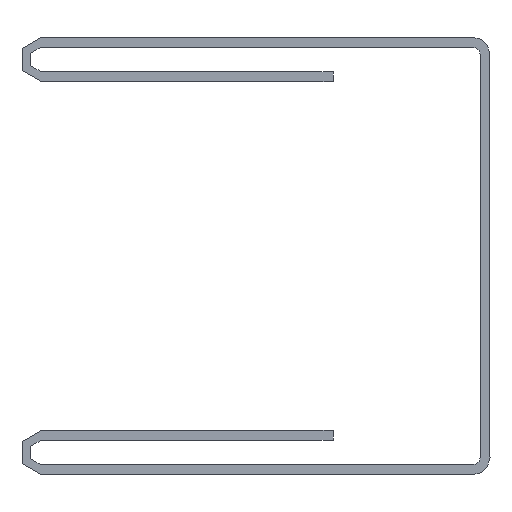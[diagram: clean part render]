
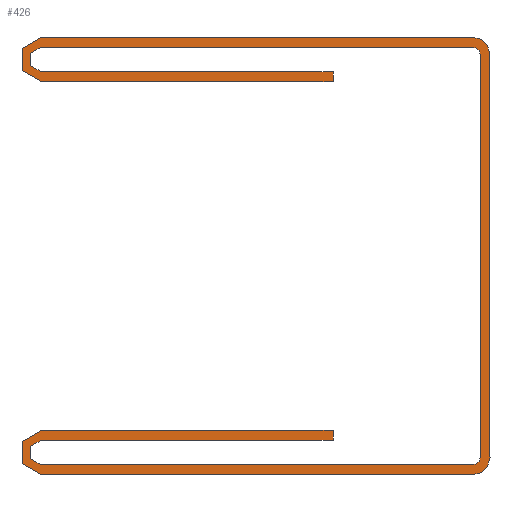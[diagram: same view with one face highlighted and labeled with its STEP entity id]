
A CAD part, front view. The second image highlights one B-rep face of the part: STEP entity #426.
In plain terms, the highlighted planar face has unit normal (0, -1, 0).
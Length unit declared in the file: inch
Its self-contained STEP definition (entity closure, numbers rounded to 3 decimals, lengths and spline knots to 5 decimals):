
#15=CIRCLE('',#450,0.025);
#17=CIRCLE('',#454,0.015);
#19=CIRCLE('',#458,0.015);
#21=CIRCLE('',#462,0.025);
#23=CIRCLE('',#468,0.045);
#25=CIRCLE('',#472,0.035);
#27=CIRCLE('',#476,0.035);
#29=CIRCLE('',#480,0.045);
#60=FACE_OUTER_BOUND('',#82,.T.);
#82=EDGE_LOOP('',(#371,#372,#373,#374,#375,#376,#377,#378,#379,#380,#381,
#382,#383,#384,#385,#386,#387,#388,#389,#390));
#83=LINE('',#611,#127);
#87=LINE('',#619,#131);
#91=LINE('',#631,#135);
#95=LINE('',#643,#139);
#99=LINE('',#655,#143);
#103=LINE('',#667,#147);
#106=LINE('',#673,#150);
#109=LINE('',#679,#153);
#113=LINE('',#691,#157);
#117=LINE('',#703,#161);
#121=LINE('',#715,#165);
#125=LINE('',#726,#169);
#127=VECTOR('',#489,0.3937);
#131=VECTOR('',#495,0.3937);
#135=VECTOR('',#507,0.3937);
#139=VECTOR('',#519,0.3937);
#143=VECTOR('',#531,0.3937);
#147=VECTOR('',#543,0.3937);
#150=VECTOR('',#548,0.3937);
#153=VECTOR('',#553,0.3937);
#157=VECTOR('',#565,0.3937);
#161=VECTOR('',#577,0.3937);
#165=VECTOR('',#589,0.3937);
#169=VECTOR('',#601,0.3937);
#171=VERTEX_POINT('',#609);
#172=VERTEX_POINT('',#610);
#175=VERTEX_POINT('',#618);
#177=VERTEX_POINT('',#624);
#179=VERTEX_POINT('',#630);
#181=VERTEX_POINT('',#636);
#183=VERTEX_POINT('',#642);
#185=VERTEX_POINT('',#648);
#187=VERTEX_POINT('',#654);
#189=VERTEX_POINT('',#660);
#191=VERTEX_POINT('',#666);
#193=VERTEX_POINT('',#672);
#195=VERTEX_POINT('',#678);
#197=VERTEX_POINT('',#684);
#199=VERTEX_POINT('',#690);
#201=VERTEX_POINT('',#696);
#203=VERTEX_POINT('',#702);
#205=VERTEX_POINT('',#708);
#207=VERTEX_POINT('',#714);
#209=VERTEX_POINT('',#720);
#211=EDGE_CURVE('',#171,#172,#83,.T.);
#215=EDGE_CURVE('',#175,#171,#87,.T.);
#218=EDGE_CURVE('',#177,#175,#15,.T.);
#221=EDGE_CURVE('',#179,#177,#91,.T.);
#224=EDGE_CURVE('',#181,#179,#17,.T.);
#227=EDGE_CURVE('',#183,#181,#95,.T.);
#230=EDGE_CURVE('',#185,#183,#19,.T.);
#233=EDGE_CURVE('',#187,#185,#99,.T.);
#236=EDGE_CURVE('',#189,#187,#21,.T.);
#239=EDGE_CURVE('',#191,#189,#103,.T.);
#242=EDGE_CURVE('',#193,#191,#106,.T.);
#245=EDGE_CURVE('',#195,#193,#109,.T.);
#248=EDGE_CURVE('',#197,#195,#23,.T.);
#251=EDGE_CURVE('',#199,#197,#113,.T.);
#254=EDGE_CURVE('',#201,#199,#25,.T.);
#257=EDGE_CURVE('',#203,#201,#117,.T.);
#260=EDGE_CURVE('',#205,#203,#27,.T.);
#263=EDGE_CURVE('',#207,#205,#121,.T.);
#266=EDGE_CURVE('',#209,#207,#29,.T.);
#269=EDGE_CURVE('',#172,#209,#125,.T.);
#371=ORIENTED_EDGE('',*,*,#269,.F.);
#372=ORIENTED_EDGE('',*,*,#211,.F.);
#373=ORIENTED_EDGE('',*,*,#215,.F.);
#374=ORIENTED_EDGE('',*,*,#218,.F.);
#375=ORIENTED_EDGE('',*,*,#221,.F.);
#376=ORIENTED_EDGE('',*,*,#224,.F.);
#377=ORIENTED_EDGE('',*,*,#227,.F.);
#378=ORIENTED_EDGE('',*,*,#230,.F.);
#379=ORIENTED_EDGE('',*,*,#233,.F.);
#380=ORIENTED_EDGE('',*,*,#236,.F.);
#381=ORIENTED_EDGE('',*,*,#239,.F.);
#382=ORIENTED_EDGE('',*,*,#242,.F.);
#383=ORIENTED_EDGE('',*,*,#245,.F.);
#384=ORIENTED_EDGE('',*,*,#248,.F.);
#385=ORIENTED_EDGE('',*,*,#251,.F.);
#386=ORIENTED_EDGE('',*,*,#254,.F.);
#387=ORIENTED_EDGE('',*,*,#257,.F.);
#388=ORIENTED_EDGE('',*,*,#260,.F.);
#389=ORIENTED_EDGE('',*,*,#263,.F.);
#390=ORIENTED_EDGE('',*,*,#266,.F.);
#404=PLANE('',#484);
#426=ADVANCED_FACE('',(#60),#404,.F.);
#450=AXIS2_PLACEMENT_3D('',#625,#500,#501);
#454=AXIS2_PLACEMENT_3D('',#637,#512,#513);
#458=AXIS2_PLACEMENT_3D('',#649,#524,#525);
#462=AXIS2_PLACEMENT_3D('',#661,#536,#537);
#468=AXIS2_PLACEMENT_3D('',#685,#558,#559);
#472=AXIS2_PLACEMENT_3D('',#697,#570,#571);
#476=AXIS2_PLACEMENT_3D('',#709,#582,#583);
#480=AXIS2_PLACEMENT_3D('',#721,#594,#595);
#484=AXIS2_PLACEMENT_3D('',#729,#605,#606);
#489=DIRECTION('',(0.,0.,-1.));
#495=DIRECTION('',(1.,0.,0.));
#500=DIRECTION('center_axis',(0.,-1.,0.));
#501=DIRECTION('ref_axis',(0.011,0.,1.));
#507=DIRECTION('',(-1.,0.,0.));
#512=DIRECTION('center_axis',(0.,-1.,0.));
#513=DIRECTION('ref_axis',(0.,0.,-1.));
#519=DIRECTION('',(0.,0.,1.));
#524=DIRECTION('center_axis',(0.,-1.,0.));
#525=DIRECTION('ref_axis',(-1.,0.,0.));
#531=DIRECTION('',(1.,0.,0.));
#536=DIRECTION('center_axis',(0.,-1.,0.));
#537=DIRECTION('ref_axis',(0.011,0.,1.));
#543=DIRECTION('',(-1.,0.,0.));
#548=DIRECTION('',(0.,0.,-1.));
#553=DIRECTION('',(1.,0.,0.));
#558=DIRECTION('center_axis',(0.,1.,0.));
#559=DIRECTION('ref_axis',(-0.011,0.,-1.));
#565=DIRECTION('',(-1.,0.,0.));
#570=DIRECTION('center_axis',(0.,1.,0.));
#571=DIRECTION('ref_axis',(1.,0.,0.));
#577=DIRECTION('',(0.,0.,-1.));
#582=DIRECTION('center_axis',(0.,1.,0.));
#583=DIRECTION('ref_axis',(0.,0.,1.));
#589=DIRECTION('',(1.,0.,0.));
#594=DIRECTION('center_axis',(0.,1.,0.));
#595=DIRECTION('ref_axis',(-0.011,0.,-1.));
#601=DIRECTION('',(-1.,0.,0.));
#605=DIRECTION('center_axis',(0.,1.,0.));
#606=DIRECTION('ref_axis',(0.,0.,1.));
#609=CARTESIAN_POINT('',(0.52795,0.,-0.07855));
#610=CARTESIAN_POINT('',(0.52795,0.,-0.09855));
#611=CARTESIAN_POINT('',(0.52795,0.,-0.07855));
#618=CARTESIAN_POINT('',(-0.06215,0.,-0.07855));
#619=CARTESIAN_POINT('',(-0.06215,0.,-0.07855));
#624=CARTESIAN_POINT('',(-0.06215,0.,-0.02855));
#625=CARTESIAN_POINT('Origin',(-0.06187,0.,-0.05355));
#630=CARTESIAN_POINT('',(0.81035,0.,-0.02855));
#631=CARTESIAN_POINT('',(0.81035,0.,-0.02855));
#636=CARTESIAN_POINT('',(0.82535,0.,-0.04355));
#637=CARTESIAN_POINT('Origin',(0.81035,0.,-0.04355));
#642=CARTESIAN_POINT('',(0.82535,0.,-0.85855));
#643=CARTESIAN_POINT('',(0.82535,0.,-0.85855));
#648=CARTESIAN_POINT('',(0.81035,0.,-0.87355));
#649=CARTESIAN_POINT('Origin',(0.81035,0.,-0.85855));
#654=CARTESIAN_POINT('',(-0.06215,0.,-0.87355));
#655=CARTESIAN_POINT('',(-0.06215,0.,-0.87355));
#660=CARTESIAN_POINT('',(-0.06215,0.,-0.82355));
#661=CARTESIAN_POINT('Origin',(-0.06187,0.,-0.84855));
#666=CARTESIAN_POINT('',(0.52795,0.,-0.82355));
#667=CARTESIAN_POINT('',(0.52795,0.,-0.82355));
#672=CARTESIAN_POINT('',(0.52795,0.,-0.80355));
#673=CARTESIAN_POINT('',(0.52795,0.,-0.80355));
#678=CARTESIAN_POINT('',(-0.06237,0.,-0.80355));
#679=CARTESIAN_POINT('',(-0.06237,0.,-0.80355));
#684=CARTESIAN_POINT('',(-0.06215,0.,-0.89355));
#685=CARTESIAN_POINT('Origin',(-0.06187,0.,-0.84855));
#690=CARTESIAN_POINT('',(0.81035,0.,-0.89355));
#691=CARTESIAN_POINT('',(0.81035,0.,-0.89355));
#696=CARTESIAN_POINT('',(0.84535,0.,-0.85855));
#697=CARTESIAN_POINT('Origin',(0.81035,0.,-0.85855));
#702=CARTESIAN_POINT('',(0.84535,0.,-0.04355));
#703=CARTESIAN_POINT('',(0.84535,0.,-0.04355));
#708=CARTESIAN_POINT('',(0.81035,0.,-0.00855));
#709=CARTESIAN_POINT('Origin',(0.81035,0.,-0.04355));
#714=CARTESIAN_POINT('',(-0.06237,0.,-0.00855));
#715=CARTESIAN_POINT('',(-0.06215,0.,-0.00855));
#720=CARTESIAN_POINT('',(-0.06237,0.,-0.09855));
#721=CARTESIAN_POINT('Origin',(-0.06187,0.,-0.05355));
#726=CARTESIAN_POINT('',(0.52795,0.,-0.09855));
#729=CARTESIAN_POINT('Origin',(0.36924,0.,-0.45105));
